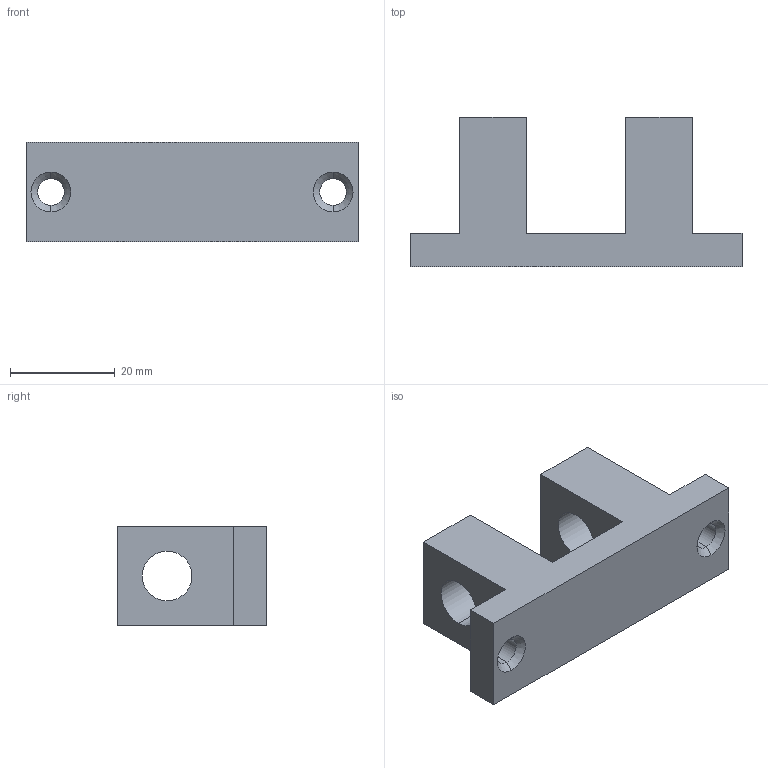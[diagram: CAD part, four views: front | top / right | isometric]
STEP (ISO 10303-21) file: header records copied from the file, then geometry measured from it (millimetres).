
FILE_DESCRIPTION (( 'STEP AP203' ), '1' );
FILE_NAME ('269-18-309.STEP', '2020-03-02T22:33:57', ( '' ), ( '' ), 'SwSTEP 2.0', 'SolidWorks 2017', '' );
FILE_SCHEMA (( 'CONFIG_CONTROL_DESIGN' ));
Length unit declared in the file: inch
Products named in the file (1): 269-18-309
Bounding box: 63.5 x 28.57 x 19.05 mm (x, y, z)
Volume: 16336 mm3; surface area: 6867.6 mm2
Topology: 1 solids, 1 shells, 26 faces, 68 edges, 44 vertices
Faces by surface type: plane 14, cylinder 8, cone 4
Entity records: 895 total; most frequent: DIRECTION 142, CARTESIAN_POINT 139, ORIENTED_EDGE 136, EDGE_CURVE 68, LINE 48, VECTOR 48, AXIS2_PLACEMENT_3D 47, VERTEX_POINT 44
